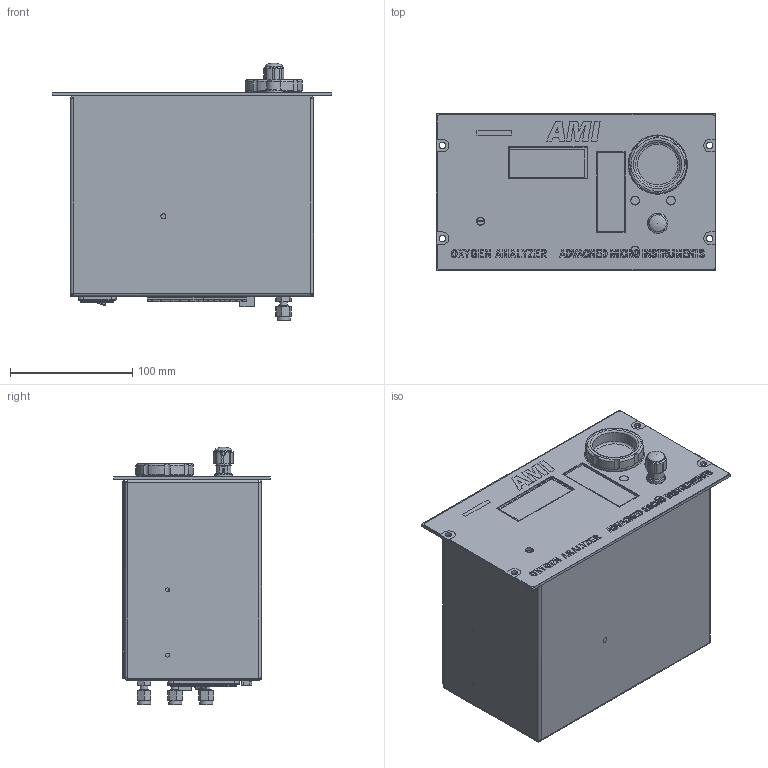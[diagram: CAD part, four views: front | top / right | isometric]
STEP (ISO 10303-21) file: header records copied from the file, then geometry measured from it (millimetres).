
FILE_DESCRIPTION (( 'STEP AP214' ), '1' );
FILE_NAME ('4DOD2015A.STEP', '2021-09-20T16:37:56', ( '' ), ( '' ), 'SwSTEP 2.0', 'SolidWorks 2020', '' );
FILE_SCHEMA (( 'AUTOMOTIVE_DESIGN' ));
Length unit declared in the file: inch
Products named in the file (40): 3CON61; 4BLK27_DOD; 3PWR05; 1STO03_93505A440; 2CAS83_Display All; 4PCB104; 1ORG27; 2PCB92; 2CAS47P^4CAS47; 4PCB92; 2TUB04; 2BRK147; 2VLV16; 2MEM68_DOD; 2CBC01; 2VLV17; 4BLK25_dod; 2BLK27_DOD; 3PEM01; 1ORG30; 3CON54; 3CON43_LEAD STYLE3PINS20PLATINGT; 2BLK25_DOD; 1FLM04; 2VLV01; 3LCD03; 2KNB07; 3CON102; 4VLV06; 2VLV23_Bl Nom; 2CAS47; 1FIT07; 4CAS47; 2VLV24_Nl nom; 1ORG26; 2PCB104_No SilkScreen; 1FIT14; 4CAS83_DOD; 4DOD2015A; 1FIT13
Assembly tree (50 placements, depth 4):
  4DOD2015A
    4CAS83_DOD
      2CAS83_Display All
    4BLK25_dod
      2BLK25_DOD
      4VLV06
        2VLV23_Bl Nom
        2VLV24_Nl nom
        2VLV16
        2VLV17
        1ORG30
        1ORG27
        1ORG26
      1FLM04
      2VLV01
      1FIT07
      1FIT13
    4BLK27_DOD
      2BLK27_DOD
      2VLV01  x2
      1FIT07
      1FIT14  x4
    3PEM01
    4PCB104
      2PCB104_No SilkScreen
      3CON54  x2
      3CON61
      3CON102
      3PWR05
    4PCB92
      2PCB92
      3CON43_LEAD STYLE3PINS20PLATINGT  x2
      3LCD03
    1STO03_93505A440  x4
    2TUB04
    2BRK147
    4CAS47
      2CAS47
      2CAS47P^4CAS47
    2MEM68_DOD
    2CBC01
    2KNB07
Bounding box: 228.6 x 128.27 x 210.55 mm (x, y, z)
Volume: 896184.4 mm3; surface area: 630983.3 mm2
Topology: 79 solids, 88 shells, 4554 faces, 11293 edges, 7242 vertices
Faces by surface type: plane 3413, cylinder 631, cone 315, bspline 180, torus 13, sphere 2
Full cylindrical faces by diameter (mm): 0.434 x3, 0.48 x40, 0.813 x2, 0.92 x4, 1.015 x2, 1.016 x10, 1.321 x15, 1.397 x8, 1.4 x12, 1.524 x4, 1.575 x40, 1.797 x2, 1.803 x4, 1.829 x40, 2.13 x1, 2.286 x1, 2.3 x5, 2.337 x2, 2.469 x4, 2.54 x1, 2.8 x5, 2.946 x2, 3.17 x1, 3.175 x8, 3.18 x4, 3.251 x2, 3.302 x1, 3.328 x1, 3.556 x1, 3.607 x1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
Entity records: 131022 total; most frequent: CARTESIAN_POINT 31763, ORIENTED_EDGE 17234, DIRECTION 16259, EDGE_CURVE 8635, LINE 6967, VECTOR 6967, VERTEX_POINT 5793, AXIS2_PLACEMENT_3D 4646
